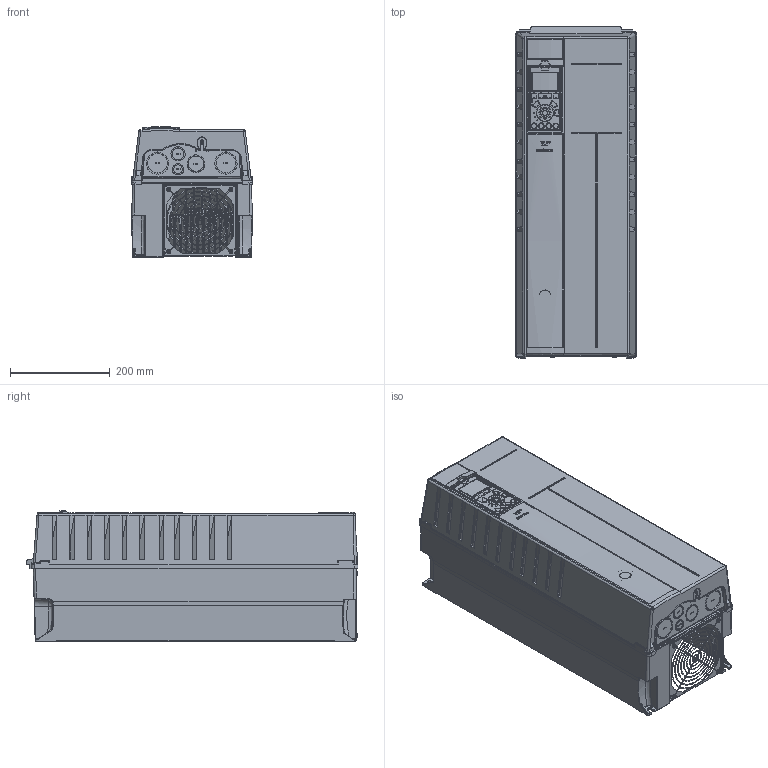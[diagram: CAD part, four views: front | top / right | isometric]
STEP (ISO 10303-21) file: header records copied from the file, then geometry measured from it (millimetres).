
FILE_DESCRIPTION((''),'2;1');
FILE_NAME('DANFOSS-FC100-B2-IP21','2011-11-09T',('cstephenkumar'),('Be-Atch INC. 1993'),'PRO/ENGINEER BY PARAMETRIC TECHNOLOGY CORPORATION, 2009360','PRO/ENGINEER BY PARAMETRIC TECHNOLOGY CORPORATION, 2009360','');
FILE_SCHEMA(('AUTOMOTIVE_DESIGN { 1 0 10303 214 1 1 1 1 }'));
Products named in the file (1): DANFOSS-FC100-B2-IP21
Bounding box: 242.5 x 664.32 x 261.6 mm (x, y, z)
Volume: 26216480.5 mm3; surface area: 2551689.5 mm2
Topology: 1 solids, 16 shells, 5426 faces, 13846 edges, 8464 vertices
Faces by surface type: cylinder 1910, plane 1694, bspline 1305, torus 197, cone 141, extrusion 115, sphere 64
Entity records: 224130 total; most frequent: CARTESIAN_POINT 99483, ORIENTED_EDGE 27650, DIRECTION 21215, EDGE_CURVE 13825, VERTEX_POINT 8464, AXIS2_PLACEMENT_3D 7238, VECTOR 6739, LINE 6624
